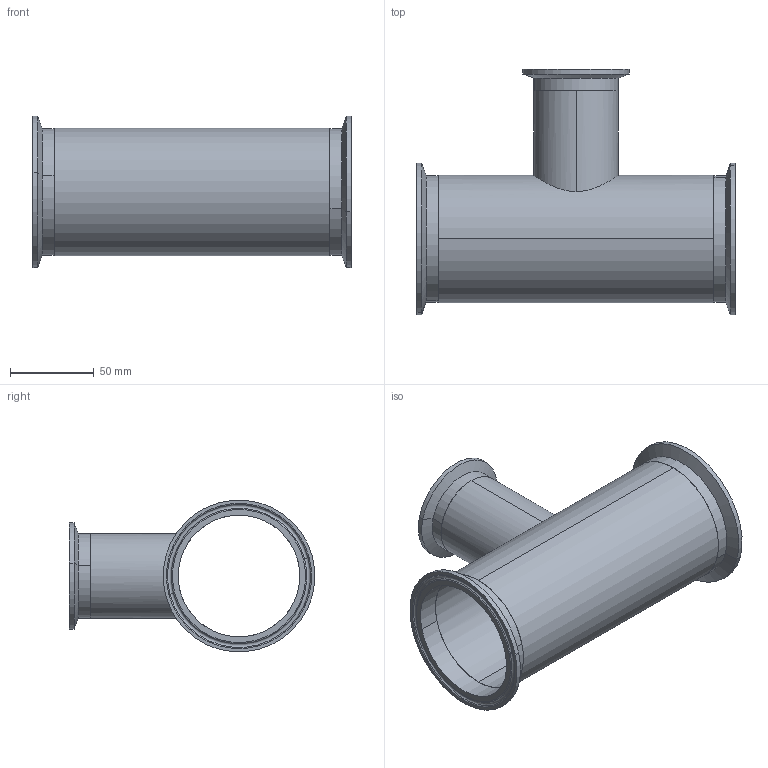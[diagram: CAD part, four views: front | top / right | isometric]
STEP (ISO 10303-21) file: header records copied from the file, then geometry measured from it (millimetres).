
FILE_DESCRIPTION (( 'STEP AP203' ), '1' );
FILE_NAME ('EG7R 3.0X2.0.STEP', '2021-10-25T14:54:14', ( '' ), ( '' ), 'SwSTEP 2.0', 'SolidWorks 2021', '' );
FILE_SCHEMA (( 'CONFIG_CONTROL_DESIGN' ));
Length unit declared in the file: inch
Products named in the file (4): EG2CS2.0; EG2CS3.0; V7WR 3.0X2.0; EG7R 3.0X2.0
Assembly tree (4 placements, depth 2):
  EG7R 3.0X2.0
    V7WR 3.0X2.0
    EG2CS3.0  x2
    EG2CS2.0
Bounding box: 190.5 x 146.89 x 90.58 mm (x, y, z)
Volume: 106704.5 mm3; surface area: 119399.3 mm2
Topology: 4 solids, 4 shells, 66 faces, 134 edges, 80 vertices
Faces by surface type: cylinder 26, torus 18, plane 12, cone 10
Entity records: 2018 total; most frequent: CARTESIAN_POINT 470, DIRECTION 276, ORIENTED_EDGE 200, AXIS2_PLACEMENT_3D 124, EDGE_CURVE 100, CIRCLE 68, VERTEX_POINT 60, EDGE_LOOP 60
